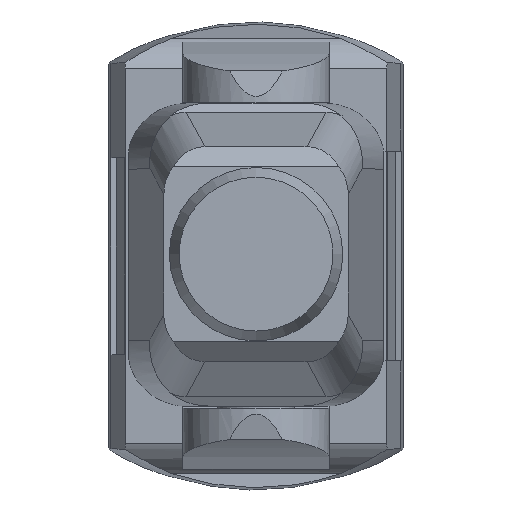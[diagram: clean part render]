
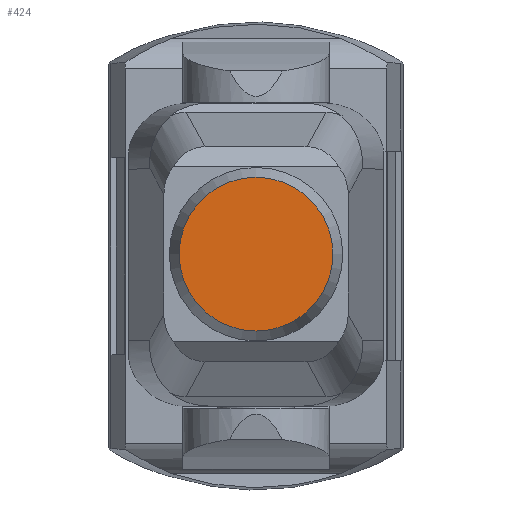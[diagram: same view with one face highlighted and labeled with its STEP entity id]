
A CAD part, top view. The second image highlights one B-rep face of the part: STEP entity #424.
In plain terms, the highlighted planar face has unit normal (0, 0, 1).
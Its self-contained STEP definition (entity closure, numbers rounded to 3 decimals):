
#424 = ADVANCED_FACE( '', ( #868 ), #869, .T. );
#868 = FACE_OUTER_BOUND( '', #1387, .T. );
#869 = PLANE( '', #1388 );
#1387 = EDGE_LOOP( '', ( #2256 ) );
#1388 = AXIS2_PLACEMENT_3D( '', #2257, #2258, #2259 );
#2256 = ORIENTED_EDGE( '', *, *, #3314, .T. );
#2257 = CARTESIAN_POINT( '', ( 130., -72.957, 661.405 ) );
#2258 = DIRECTION( '', ( 0., 0., 1. ) );
#2259 = DIRECTION( '', ( 0., -1., 0. ) );
#3314 = EDGE_CURVE( '', #4024, #4024, #4025, .T. );
#4024 = VERTEX_POINT( '', #5307 );
#4025 = CIRCLE( '', #5308, 70. );
#5307 = CARTESIAN_POINT( '', ( 0., -70., 661.405 ) );
#5308 = AXIS2_PLACEMENT_3D( '', #6121, #6122, #6123 );
#6121 = CARTESIAN_POINT( '', ( 0., 0., 661.405 ) );
#6122 = DIRECTION( '', ( 0., 0., 1. ) );
#6123 = DIRECTION( '', ( 0., -1., 0. ) );
